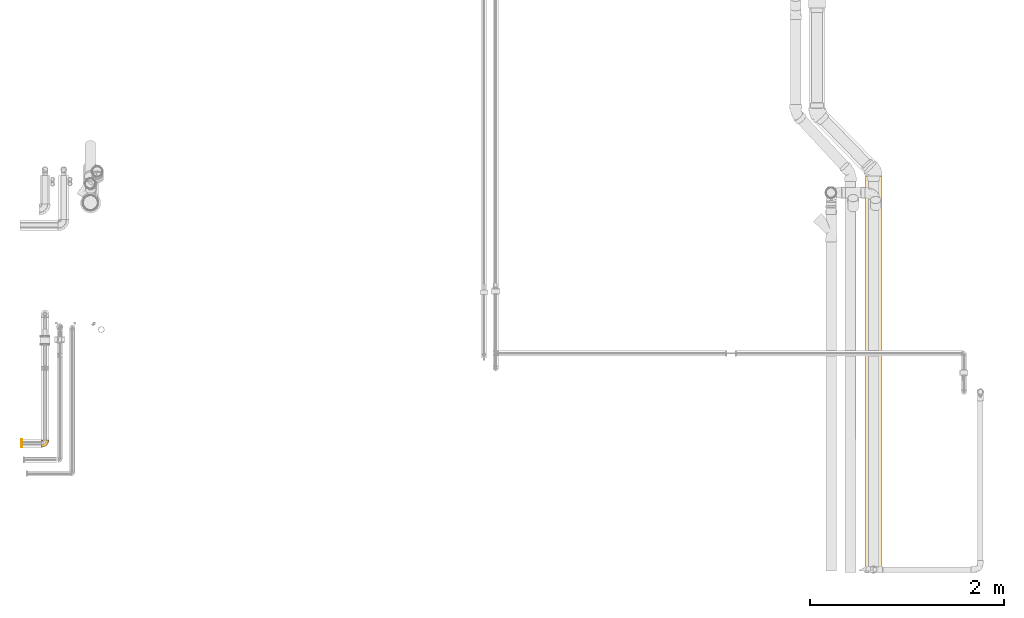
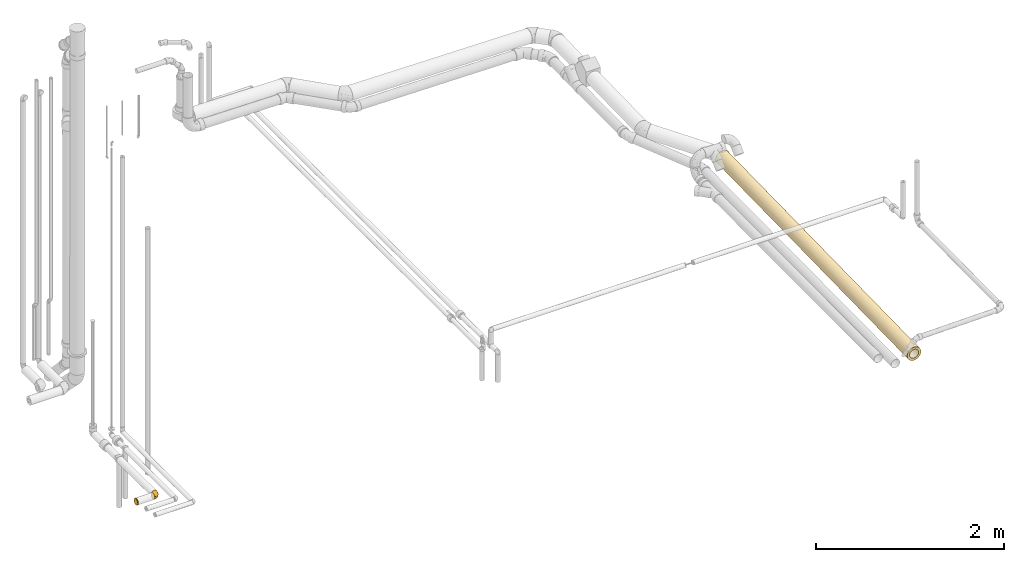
# One storey, part 8 of 78: 3 coverings.
"""IFC2X3 building model written with IfcOpenShell, lengths in millimetres."""

from ifc_helpers import new_model, entity, si_unit, converted_unit, derived_unit, direction, frame, origin_with_axes, place, context, subcontext, project, spatial, open_shell, faceted_brep, surface_model, source, transform, mapped, element, save


model = new_model("IFC2X3")

# Units and contexts
model_context = context("Model", 3, precision=0.01, world=frame((0.0, 4.29681676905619e-09, 0.0)), true_north=direction((4.01073788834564e-13, 1.0)))
plan_context = context("Plan", 3, precision=0.01, world=frame((0.0, 4.29681676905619e-09, 0.0)), true_north=direction((4.01073788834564e-13, 1.0)))
body_context = subcontext(model_context, "Body", "Model", "MODEL_VIEW")
ifc_project = project(units=[converted_unit("PLANEANGLEUNIT", "DEGREE", entity("IfcPositiveLengthMeasure", 0.0174532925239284), si_unit("PLANEANGLEUNIT", "RADIAN"), dimensions=[0, 0, 0, 0, 0, 0, 0]), si_unit("AREAUNIT", "SQUARE_METRE"), si_unit("LENGTHUNIT", "METRE", prefix="MILLI"), si_unit("MASSUNIT", "GRAM", prefix="KILO"), si_unit("POWERUNIT", "WATT"), si_unit("PRESSUREUNIT", "PASCAL"), si_unit("FORCEUNIT", "NEWTON", prefix="KILO"), si_unit("ELECTRICVOLTAGEUNIT", "VOLT"), si_unit("ELECTRICCURRENTUNIT", "AMPERE"), si_unit("THERMODYNAMICTEMPERATUREUNIT", "DEGREE_CELSIUS"), si_unit("TIMEUNIT", "SECOND"), si_unit("VOLUMEUNIT", "CUBIC_METRE"), derived_unit("LINEARVELOCITYUNIT", [(si_unit("LENGTHUNIT", "METRE"), 1), (si_unit("TIMEUNIT", "SECOND"), -1)]), derived_unit("VOLUMETRICFLOWRATEUNIT", [(si_unit("VOLUMEUNIT", "CUBIC_METRE"), 1), (si_unit("TIMEUNIT", "SECOND"), -1)]), derived_unit("THERMALTRANSMITTANCEUNIT", [(si_unit("POWERUNIT", "WATT"), 1), (si_unit("THERMODYNAMICTEMPERATUREUNIT", "KELVIN"), -1), (si_unit("AREAUNIT", "SQUARE_METRE"), -1)]), derived_unit("SOUNDPRESSUREUNIT", [(si_unit("PRESSUREUNIT", "PASCAL"), 1)])], contexts=[model_context, plan_context])

# Site, building, storey
site_placement = place(None, frame((0.0, -4.29681676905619e-09, 0.0), z_axis=(0.0, 0.0, 1.0), x_axis=(1.0, 0.0, 0.0)))
site = spatial("IfcSite", under=ifc_project, at=site_placement, Name="ENGM", CompositionType="ELEMENT")
building_placement = place(site_placement, frame((0.0, 4.29681676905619e-09, 0.0), z_axis=(0.0, 0.0, 1.0), x_axis=(1.0, 0.0, 0.0)))
building = spatial("IfcBuilding", under=site, at=building_placement, Name="TH", CompositionType="ELEMENT")
storey_placement = place(building_placement, frame((0.0, 0.0, 205200.0), z_axis=(0.0, 0.0, 1.0), x_axis=(1.0, 0.0, 0.0)))
storey = spatial("IfcBuildingStorey", under=building, at=storey_placement, Name="Nivå D + 1,2 m", CompositionType="ELEMENT", Elevation=205200.0)

# Coverings
shared_shape_1 = source(origin_with_axes(), body_context, "Body", "SurfaceModel", [
    surface_model("IfcShellBasedSurfaceModel", [(18.01272, 35.0, 37.38706), (25.88116, 35.0, 32.44096), (32.45082, 35.0, 25.86878), (-34.77526, 35.0, -22.64798), (-10.20341, 35.0, 40.22611), (37.3931, 35.0, 18.00017), (0.0, 35.0, 41.5), (9.23923, 35.0, 40.45845), (-28.14065, 35.0, 30.5017), (-19.77898, 35.0, 36.48345), (-34.77526, 35.0, 22.64798), (40.46071, 35.0, 9.22935), (40.45845, 35.0, -9.23923), (32.44096, 35.0, -25.88116), (37.38706, 35.0, -18.01272), (25.86878, 35.0, -32.45082), (9.22935, 35.0, -40.46071), (18.00017, 35.0, -37.3931), (-19.77754, 35.0, -36.48423), (-28.13945, 35.0, -30.50281), (-10.20182, 35.0, -40.22652), (0.0, 35.0, -41.5), (41.5, 35.0, 0.0), (-35.0, 34.77526, -22.64798), (-35.0, 28.14035, -30.50198), (-35.0, 19.77826, -36.48384), (-35.0, 10.20222, -40.22642), (-35.0, 0.0, -41.5), (-35.0, 34.77526, 22.64798), (-35.0, -10.74099, -40.08592), (-35.0, 19.77826, 36.48384), (-35.0, 28.14035, 30.50198), (-35.0, 10.20222, 40.22642), (-35.0, -10.74099, 40.08592), (-35.0, 0.0, 41.5), (-35.0, -20.75, -35.94006), (-35.0, -35.94006, -20.75), (-35.0, -29.34493, -29.34493), (-35.0, -40.08592, 10.74099), (-35.0, -40.08592, -10.74099), (-35.0, -29.34493, 29.34493), (-35.0, -20.75, 35.94006), (-35.0, -35.94006, 20.75), (-35.0, -41.5, 0.0), (-34.84109, 34.84109, 22.64798), (-34.84109, 34.84109, -22.64798), (-31.64421, 15.39167, -38.65283), (-32.30655, 24.48475, -33.75287), (-27.62803, 16.52293, -38.65283), (-22.66177, 11.06119, -40.70807), (-17.5, 4.68911, -41.5), (-26.25, 2.34456, -41.5), (-16.52233, 27.62799, -38.65305), (-26.67126, 29.31483, -33.18807), (-24.48391, 32.30643, -33.75347), (-29.83814, 24.09272, -34.588), (-32.60004, 29.67626, -29.5284), (-27.75569, 9.28145, -40.66547), (-2.34456, 26.25, -41.5), (-11.06069, 22.6619, -40.70815), (-9.28112, 27.75578, -40.66554), (-23.93214, 18.44385, -38.66122), (-18.82795, 18.80671, -39.69251), (-15.39109, 31.64418, -38.65305), (-34.10257, 30.40075, -28.34273), (-30.40041, 34.10249, -28.34311), (-30.11227, 32.79735, -29.04801), (-34.80064, 34.93873, -22.64798), (-24.63119, 23.87481, -36.47636), (-34.93873, 34.80064, -22.64798), (-29.35712, 27.14751, -32.8729), (-31.63032, 32.35902, -27.90361), (-34.82086, 34.88991, -22.64798), (-18.46359, 23.9286, -38.65558), (-11.09456, 11.09456, -41.5), (-4.68911, 17.5, -41.5), (-34.88991, 34.82086, -22.64798), (27.83677, -5.85141, -11.24085), (36.82171, 16.48761, -13.71224), (35.67679, 5.72472, 0.0), (-22.86743, -6.62496, -40.64984), (-14.33903, -3.37223, -40.60316), (-3.92502, -15.84833, -33.42878), (-8.75932, -27.65077, -25.2636), (-19.40263, -23.21017, -32.92416), (-15.52855, -12.00825, -38.341), (-26.16455, -15.10836, -38.341), (17.27298, 12.08954, -35.14288), (21.0321, 24.14836, -35.14288), (27.30336, 18.94255, -29.35053), (-2.77145, 6.24147, -40.683), (-1.79804, 28.28963, -41.5), (25.04903, -4.75857, -18.75896), (-12.84078, -37.47165, -7.67715), (-15.9244, -35.81683, -15.88136), (38.52278, 20.03254, 0.0), (-23.05874, -31.86627, -25.2636), (14.91792, -14.6542, -21.64481), (20.81681, -3.31546, -25.55024), (5.24732, 10.54563, -39.69862), (12.15981, 22.84564, -39.17315), (33.85562, 21.66517, -22.08583), (6.20615, -4.51621, -35.1312), (-2.6613, -2.55281, -38.86273), (24.37797, 7.43419, -28.18078), (29.23604, 6.84605, -22.08583), (19.0594, -16.23966, -12.77633), (-3.17391, -30.78008, -16.5095), (0.72525, -31.45201, -9.29177), (8.68959, -24.37514, -14.9415), (13.12961, -23.6461, -7.21983), (19.09367, -19.09367, 0.0), (27.38523, -6.68448, 0.0), (-20.03254, -38.52278, 0.0), (3.73155, -20.28384, -25.80524), (10.84929, -10.13749, -29.35053), (-28.28963, 1.79804, -41.5), (16.35343, 1.13542, -31.92573), (10.96017, 4.30399, -36.21391), (-5.72472, -35.67679, 0.0), (6.68448, -27.38523, 0.0), (-21.76287, -14.12933, 38.341), (-12.85345, -37.43022, 7.90383), (11.84387, -22.42643, 13.88297), (27.85306, -5.82875, 11.23619), (27.31531, 18.94409, 29.33934), (33.86461, 21.66997, 22.07324), (-11.70817, -20.5805, 32.92416), (-17.88346, -30.73215, 25.2636), (0.65751, -23.60289, 24.35959), (17.28854, 12.09365, 35.13497), (21.04556, 24.1516, 35.13497), (12.17134, 22.84486, 39.16918), (19.93553, -9.81896, 20.82115), (-18.51493, -4.79847, 40.7063), (-17.5, 4.68911, 41.5), (-26.25, 2.34456, 41.5), (-1.79804, 28.28963, 41.5), (-21.93773, -37.8245, 14.22278), (-24.39922, -24.3239, 32.92416), (2.79451, -30.69957, 7.6178), (36.82733, 16.49349, 13.70088), (0.92762, -10.78806, 34.40886), (-12.95334, -10.19298, 38.5831), (29.24842, 6.85457, 22.07324), (-11.58566, -0.46749, 40.81683), (-3.83679, 4.32716, 40.57223), (-4.68911, 17.5, 41.5), (-11.09456, 11.09456, 41.5), (21.8032, 4.76185, 29.33965), (5.25045, 10.53124, 39.69553), (-26.9199, -7.06022, 40.75478), (10.87448, -10.12785, 29.33934), (8.44865, -0.34272, 35.78987), (-8.41843, -33.35439, 15.88136), (1.55905, -17.3782, 29.80727), (-5.11326, -4.75335, 38.7961), (-27.75569, 9.28145, 40.66547), (-27.62803, 16.52293, 38.65283), (-22.66177, 11.06119, 40.70807), (-34.10257, 30.40075, 28.34273), (-32.30655, 24.48475, 33.75287), (-31.64421, 15.39167, 38.65283), (-32.60004, 29.67626, 29.5284), (-9.28203, 27.75543, 40.66538), (-30.40098, 34.10263, 28.34248), (-24.48523, 32.30666, 33.75251), (-26.67272, 29.31579, 33.18675), (-16.52396, 27.62804, 38.65246), (-2.34456, 26.25, 41.5), (-11.06212, 22.66147, 40.70793), (-15.39265, 31.64413, 38.65246), (-34.93873, 34.80064, 22.64798), (-23.93199, 18.44467, 38.66099), (-18.82692, 18.80731, 39.6926), (-18.46401, 23.92901, 38.65536), (-24.63097, 23.87584, 36.47604), (-29.35712, 27.14751, 32.8729), (-29.83814, 24.09272, 34.588), (-34.80064, 34.93873, 22.64798), (-34.82086, 34.88991, 22.64798), (-31.63096, 32.35952, 27.90271), (-30.11227, 32.79749, 29.04795), (-34.88991, 34.82086, 22.64798)], [open_shell([[[0, 1, 2]], [[3, 4, 0]], [[5, 0, 2]], [[6, 0, 4]], [[6, 7, 0]], [[4, 8, 9]], [[3, 8, 4]], [[8, 3, 10]], [[5, 11, 12]], [[13, 12, 14]], [[12, 15, 16]], [[15, 12, 13]], [[17, 16, 15]], [[3, 18, 19]], [[18, 3, 20]], [[20, 16, 21]], [[16, 20, 3]], [[3, 12, 16]], [[12, 11, 22]], [[23, 24, 25]], [[25, 26, 27]], [[23, 25, 28]], [[29, 30, 25]], [[31, 28, 30]], [[25, 30, 28]], [[30, 29, 32]], [[32, 33, 34]], [[27, 29, 25]], [[29, 35, 36]], [[29, 36, 33]], [[36, 35, 37]], [[38, 36, 39]], [[33, 40, 41]], [[40, 33, 42]], [[36, 42, 33]], [[36, 38, 42]], [[39, 43, 38]], [[29, 33, 32]], [[23, 28, 44]], [[45, 23, 44]], [[10, 3, 44]], [[45, 44, 3]], [[46, 47, 48]], [[49, 50, 51]], [[52, 53, 54]], [[55, 47, 56]], [[51, 57, 49]], [[58, 59, 60]], [[25, 46, 26]], [[61, 62, 49]], [[46, 57, 26]], [[52, 60, 59]], [[18, 20, 63]], [[26, 57, 27]], [[24, 64, 47]], [[65, 66, 67]], [[18, 63, 54]], [[19, 65, 3]], [[21, 58, 60]], [[64, 56, 47]], [[62, 61, 68]], [[60, 52, 63]], [[18, 54, 19]], [[23, 69, 64]], [[70, 55, 56]], [[47, 25, 24]], [[65, 19, 54]], [[45, 71, 70]], [[72, 67, 66]], [[59, 73, 52]], [[62, 74, 49]], [[47, 46, 25]], [[57, 46, 48]], [[57, 48, 49]], [[57, 51, 27]], [[61, 49, 48]], [[59, 74, 62]], [[55, 61, 48]], [[68, 61, 70]], [[70, 53, 68]], [[73, 68, 53]], [[20, 21, 60]], [[54, 63, 52]], [[20, 60, 63]], [[59, 58, 75]], [[73, 59, 62]], [[68, 73, 62]], [[53, 52, 73]], [[23, 64, 24]], [[76, 56, 69]], [[70, 76, 45]], [[69, 56, 64]], [[76, 70, 56]], [[61, 55, 70]], [[48, 47, 55]], [[71, 45, 72]], [[3, 65, 67]], [[66, 54, 53]], [[54, 66, 65]], [[66, 53, 71]], [[66, 71, 72]], [[70, 71, 53]], [[74, 59, 75]], [[50, 49, 74]], [[77, 78, 79]], [[80, 50, 81]], [[82, 83, 84]], [[85, 86, 80]], [[87, 88, 89]], [[74, 90, 81]], [[91, 21, 16]], [[78, 77, 92]], [[93, 39, 94]], [[78, 12, 95]], [[96, 36, 37]], [[35, 86, 84]], [[35, 84, 37]], [[36, 96, 94]], [[86, 35, 29]], [[97, 98, 92]], [[99, 75, 100]], [[91, 16, 100]], [[13, 14, 101]], [[89, 15, 13]], [[100, 75, 91]], [[100, 16, 17]], [[88, 100, 17]], [[102, 82, 103]], [[100, 87, 99]], [[104, 105, 98]], [[104, 89, 105]], [[97, 92, 106]], [[93, 107, 108]], [[78, 14, 12]], [[79, 78, 95]], [[105, 101, 78]], [[36, 94, 39]], [[101, 89, 13]], [[109, 110, 108]], [[15, 88, 17]], [[107, 109, 108]], [[111, 77, 112]], [[39, 93, 113]], [[97, 114, 115]], [[81, 90, 103]], [[82, 84, 85]], [[96, 84, 83]], [[29, 27, 116]], [[87, 117, 118]], [[99, 103, 90]], [[12, 22, 95]], [[78, 101, 14]], [[89, 101, 105]], [[89, 88, 15]], [[100, 88, 87]], [[103, 82, 85]], [[82, 115, 114]], [[81, 85, 80]], [[117, 102, 118]], [[113, 93, 119]], [[113, 43, 39]], [[110, 111, 120]], [[120, 119, 108]], [[93, 108, 119]], [[106, 110, 109]], [[120, 108, 110]], [[107, 93, 94]], [[94, 83, 107]], [[114, 107, 83]], [[97, 106, 109]], [[106, 77, 111]], [[109, 107, 114]], [[98, 97, 115]], [[109, 114, 97]], [[82, 114, 83]], [[117, 98, 115]], [[92, 98, 105]], [[102, 117, 115]], [[104, 87, 89]], [[82, 102, 115]], [[118, 103, 99]], [[78, 92, 105]], [[92, 77, 106]], [[98, 117, 104]], [[87, 104, 117]], [[103, 118, 102]], [[99, 90, 75]], [[99, 87, 118]], [[84, 96, 37]], [[94, 96, 83]], [[80, 29, 116]], [[84, 86, 85]], [[29, 80, 86]], [[50, 80, 116]], [[74, 81, 50]], [[103, 85, 81]], [[77, 79, 112]], [[111, 110, 106]], [[75, 90, 74]], [[41, 121, 33]], [[119, 122, 113]], [[123, 111, 124]], [[122, 38, 113]], [[125, 126, 2]], [[127, 128, 129]], [[130, 131, 132]], [[133, 129, 123]], [[134, 135, 136]], [[7, 137, 132]], [[138, 128, 42]], [[7, 6, 137]], [[40, 139, 41]], [[41, 139, 121]], [[0, 7, 132]], [[111, 123, 140]], [[124, 79, 141]], [[127, 142, 143]], [[144, 126, 125]], [[1, 125, 2]], [[38, 122, 138]], [[141, 5, 126]], [[141, 95, 11]], [[1, 0, 131]], [[134, 145, 135]], [[146, 147, 148]], [[149, 144, 125]], [[130, 132, 150]], [[132, 147, 150]], [[5, 141, 11]], [[42, 128, 40]], [[131, 125, 1]], [[124, 141, 144]], [[149, 125, 130]], [[124, 133, 123]], [[5, 2, 126]], [[124, 111, 112]], [[147, 132, 137]], [[121, 134, 151]], [[152, 153, 142]], [[153, 130, 150]], [[129, 128, 154]], [[139, 128, 127]], [[148, 145, 146]], [[153, 152, 149]], [[123, 129, 154]], [[155, 152, 142]], [[122, 140, 154]], [[124, 144, 133]], [[95, 141, 79]], [[95, 22, 11]], [[33, 151, 34]], [[141, 126, 144]], [[132, 131, 0]], [[125, 131, 130]], [[146, 153, 150]], [[145, 148, 135]], [[142, 153, 156]], [[38, 43, 113]], [[140, 122, 119]], [[122, 154, 138]], [[140, 119, 120]], [[154, 140, 123]], [[128, 138, 154]], [[42, 38, 138]], [[151, 134, 136]], [[143, 134, 121]], [[149, 133, 144]], [[111, 140, 120]], [[129, 133, 152]], [[34, 151, 136]], [[121, 151, 33]], [[153, 149, 130]], [[133, 149, 152]], [[143, 142, 156]], [[155, 127, 129]], [[128, 139, 40]], [[121, 139, 127]], [[127, 143, 121]], [[145, 143, 156]], [[143, 145, 134]], [[145, 156, 146]], [[153, 146, 156]], [[147, 146, 150]], [[127, 155, 142]], [[129, 152, 155]], [[112, 79, 124]], [[34, 136, 157]], [[158, 157, 159]], [[160, 31, 161]], [[30, 162, 161]], [[163, 160, 161]], [[4, 164, 6]], [[8, 165, 166]], [[32, 162, 30]], [[28, 31, 160]], [[167, 168, 166]], [[169, 164, 170]], [[30, 161, 31]], [[157, 158, 162]], [[9, 171, 4]], [[160, 163, 172]], [[168, 171, 166]], [[171, 164, 4]], [[158, 159, 173]], [[174, 170, 175]], [[176, 177, 173]], [[178, 177, 163]], [[10, 179, 165]], [[136, 159, 157]], [[166, 9, 8]], [[180, 181, 182]], [[165, 182, 166]], [[177, 167, 181]], [[159, 135, 148]], [[147, 169, 170]], [[32, 34, 157]], [[161, 162, 158]], [[32, 157, 162]], [[159, 136, 135]], [[147, 170, 148]], [[173, 159, 174]], [[176, 173, 174]], [[178, 173, 177]], [[175, 176, 174]], [[167, 177, 176]], [[166, 171, 9]], [[164, 171, 168]], [[164, 168, 170]], [[164, 169, 6]], [[175, 170, 168]], [[170, 174, 148]], [[168, 167, 175]], [[176, 175, 167]], [[177, 44, 183]], [[28, 160, 172]], [[161, 178, 163]], [[177, 183, 163]], [[172, 163, 183]], [[161, 158, 178]], [[173, 178, 158]], [[10, 165, 8]], [[165, 179, 182]], [[181, 180, 44]], [[180, 182, 179]], [[166, 182, 167]], [[177, 181, 44]], [[182, 181, 167]], [[159, 148, 174]], [[0, 5, 12]], [[3, 0, 12]]])]),
])
covering_1_placement = place(storey_placement, frame((895369.5, 477348.36592, 4450.0), z_axis=(0.0, 0.0, 1.0), x_axis=(1.0, 0.0, 0.0)))
element("IfcCovering", 1, at=covering_1_placement, inside=storey, Name="BI20T - Cellegummi 13 mm kalde rør", PredefinedType="INSULATION", context=body_context, shape_type="MappedRepresentation", body=[
    mapped(shared_shape_1, transform((0.0, 0.0, 0.0), scale=1.0)),
])
shared_shape_2 = source(origin_with_axes(), body_context, "Body", "SurfaceModel", [
    surface_model("IfcShellBasedSurfaceModel", [(0.0, 10.74099, 40.08592), (0.0, -29.34493, 29.34493), (0.0, 0.0, 41.5), (0.0, 20.75, 35.94006), (0.0, -40.08592, -10.74099), (0.0, 29.34493, 29.34493), (0.0, 35.94006, 20.75), (0.0, 40.08592, 10.74099), (0.0, 41.5, 0.0), (0.0, -10.74099, 40.08592), (0.0, -20.75, 35.94006), (0.0, -40.08592, 10.74099), (0.0, -35.94006, 20.75), (0.0, -41.5, 0.0), (0.0, 40.08592, -10.74099), (0.0, 35.94006, -20.75), (0.0, 10.74099, -40.08592), (0.0, 20.75, -35.94006), (0.0, 29.34493, -29.34493), (0.0, -29.34493, -29.34493), (0.0, -35.94006, -20.75), (0.0, -20.75, -35.94006), (0.0, 0.0, -41.5), (0.0, -10.74099, -40.08592), (10.0, 35.94006, -20.75), (10.0, 10.74099, -40.08592), (10.0, 20.75, -35.94006), (10.0, 29.34493, -29.34493), (10.0, 40.08592, -10.74099), (10.0, 41.5, 0.0), (10.0, -40.08592, -10.74099), (10.0, -10.74099, -40.08592), (10.0, 0.0, -41.5), (10.0, -20.75, -35.94006), (10.0, -29.34493, -29.34493), (10.0, -35.94006, -20.75), (10.0, 29.34493, 29.34493), (10.0, 40.08592, 10.74099), (10.0, 35.94006, 20.75), (10.0, -40.08592, 10.74099), (10.0, 10.74099, 40.08592), (10.0, 20.75, 35.94006), (10.0, 0.0, 41.5), (10.0, -29.34493, 29.34493), (10.0, -35.94006, 20.75), (10.0, -41.5, 0.0), (10.0, -10.74099, 40.08592), (10.0, -20.75, 35.94006)], [open_shell([[[0, 1, 2]], [[3, 4, 0]], [[5, 6, 7]], [[3, 5, 8]], [[0, 4, 1]], [[9, 1, 10]], [[9, 2, 1]], [[1, 11, 12]], [[1, 4, 11]], [[11, 4, 13]], [[5, 7, 8]], [[8, 14, 15]], [[8, 15, 16]], [[17, 16, 15]], [[17, 15, 18]], [[8, 16, 4]], [[4, 19, 20]], [[19, 4, 21]], [[21, 22, 23]], [[22, 21, 4]], [[4, 16, 22]], [[8, 4, 3]], [[24, 25, 26]], [[24, 26, 27]], [[24, 28, 29]], [[24, 29, 25]], [[25, 29, 30]], [[25, 31, 32]], [[25, 33, 31]], [[34, 30, 35]], [[30, 34, 33]], [[25, 30, 33]], [[29, 36, 30]], [[37, 38, 36]], [[30, 36, 39]], [[36, 40, 39]], [[40, 36, 41]], [[42, 43, 40]], [[39, 43, 44]], [[45, 30, 39]], [[43, 46, 47]], [[43, 39, 40]], [[46, 43, 42]], [[29, 37, 36]], [[37, 8, 7]], [[38, 7, 6]], [[29, 8, 37]], [[38, 37, 7]], [[36, 38, 6]], [[6, 5, 36]], [[41, 5, 3]], [[40, 3, 0]], [[41, 3, 40]], [[42, 40, 0]], [[2, 42, 0]], [[5, 41, 36]], [[46, 2, 9]], [[47, 9, 10]], [[42, 2, 46]], [[47, 46, 9]], [[43, 47, 10]], [[10, 1, 43]], [[44, 1, 12]], [[39, 12, 11]], [[44, 12, 39]], [[45, 39, 11]], [[13, 45, 11]], [[1, 44, 43]], [[30, 13, 4]], [[35, 4, 20]], [[45, 13, 30]], [[35, 30, 4]], [[34, 35, 20]], [[20, 19, 34]], [[33, 19, 21]], [[31, 21, 23]], [[33, 21, 31]], [[32, 31, 23]], [[22, 32, 23]], [[19, 33, 34]], [[25, 22, 16]], [[26, 16, 17]], [[32, 22, 25]], [[26, 25, 16]], [[27, 26, 17]], [[17, 18, 27]], [[24, 18, 15]], [[28, 15, 14]], [[24, 15, 28]], [[29, 28, 14]], [[8, 29, 14]], [[18, 24, 27]]])]),
])
covering_2_placement = place(storey_placement, frame((895136.31886, 477348.36592, 4450.0), z_axis=(0.0, 0.0, 1.0), x_axis=(-1.0, 0.0, 0.0)))
element("IfcCovering", 2, at=covering_2_placement, inside=storey, Name="BI20T - Cellegummi 13 mm kalde rør", PredefinedType="INSULATION", context=body_context, shape_type="MappedRepresentation", body=[
    mapped(shared_shape_2, transform((0.0, 0.0, 0.0), scale=1.0)),
])
covering_3_placement = place(storey_placement, frame((903902.88819, 480104.18208, 4172.07457), z_axis=(0.0, -0.0199960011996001, 0.999800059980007), x_axis=(0.0, -0.999800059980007, -0.0199960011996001)))
element("IfcCovering", 3, at=covering_3_placement, inside=storey, Name="BI17T - Cellegummi 13 mm SPV fett", PredefinedType="INSULATION", context=body_context, shape_type="Brep", body=[
    faceted_brep([(4070.31897876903, 55.0, 0.0), (4070.50999176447, 54.1644264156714, -9.55064977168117), (0.0, 54.1644264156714, -9.55064977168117), (0.0, 55.0, 0.0), (4070.69520092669, 51.6830941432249, -18.8111078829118), (0.0, 51.6830941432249, -18.8111078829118), (4070.86897876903, 47.6313972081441, -27.5), (0.0, 47.6313972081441, -27.5), (4071.02604513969, 42.1324443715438, -35.3533185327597), (0.0, 42.1324443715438, -35.3533185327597), (4071.16162765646, 35.3533185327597, -42.1324443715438), (0.0, 35.3533185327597, -42.1324443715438), (4071.2716067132, 27.5, -47.6313972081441), (0.0, 27.5, -47.6313972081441), (4071.3526406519, 18.8111078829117, -51.683094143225), (0.0, 18.8111078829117, -51.683094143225), (4071.40226729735, 9.55064977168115, -54.1644264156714), (0.0, 9.55064977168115, -54.1644264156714), (4071.41897876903, -1.01033360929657e-14, -55.0), (0.0, -1.01033360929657e-14, -55.0), (4071.40226729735, -9.55064977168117, -54.1644264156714), (0.0, -9.55064977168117, -54.1644264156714), (4071.3526406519, -18.8111078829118, -51.6830941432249), (0.0, -18.8111078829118, -51.6830941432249), (4071.2716067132, -27.5, -47.6313972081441), (0.0, -27.5, -47.6313972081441), (4071.16162765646, -35.3533185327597, -42.1324443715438), (0.0, -35.3533185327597, -42.1324443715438), (4071.02604513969, -42.1324443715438, -35.3533185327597), (0.0, -42.1324443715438, -35.3533185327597), (4070.86897876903, -47.6313972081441, -27.5), (0.0, -47.6313972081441, -27.5), (4070.69520092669, -51.683094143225, -18.8111078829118), (0.0, -51.683094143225, -18.8111078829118), (4070.50999176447, -54.1644264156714, -9.55064977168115), (0.0, -54.1644264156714, -9.55064977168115), (4070.31897876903, -55.0, 6.73555739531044e-15), (0.0, -55.0, 6.73555739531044e-15), (4070.1279657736, -54.1644264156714, 9.55064977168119), (0.0, -54.1644264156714, 9.55064977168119), (4069.94275661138, -51.683094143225, 18.8111078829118), (0.0, -51.683094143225, 18.8111078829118), (4069.76897876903, -47.6313972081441, 27.5), (0.0, -47.6313972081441, 27.5), (4069.61191239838, -42.1324443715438, 35.3533185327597), (0.0, -42.1324443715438, 35.3533185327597), (4069.4763298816, -35.3533185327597, 42.1324443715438), (0.0, -35.3533185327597, 42.1324443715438), (4069.36635082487, -27.5, 47.6313972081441), (0.0, -27.5, 47.6313972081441), (4069.28531688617, -18.8111078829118, 51.683094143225), (0.0, -18.8111078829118, 51.683094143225), (4069.23569024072, -9.55064977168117, 54.1644264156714), (0.0, -9.55064977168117, 54.1644264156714), (4069.21897876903, 3.36777869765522e-15, 55.0), (0.0, 3.36777869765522e-15, 55.0), (4069.23569024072, 9.55064977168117, 54.1644264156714), (0.0, 9.55064977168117, 54.1644264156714), (4069.28531688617, 18.8111078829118, 51.683094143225), (0.0, 18.8111078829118, 51.683094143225), (4069.36635082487, 27.5, 47.6313972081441), (0.0, 27.5, 47.6313972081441), (4069.4763298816, 35.3533185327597, 42.1324443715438), (0.0, 35.3533185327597, 42.1324443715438), (4069.61191239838, 42.1324443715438, 35.3533185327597), (0.0, 42.1324443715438, 35.3533185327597), (4069.76897876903, 47.6313972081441, 27.5), (0.0, 47.6313972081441, 27.5), (4069.94275661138, 51.683094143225, 18.8111078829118), (0.0, 51.683094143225, 18.8111078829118), (4070.1279657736, 54.1644264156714, 9.55064977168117), (0.0, 54.1644264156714, 9.55064977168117), (4070.61070770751, 82.7238512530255, -14.5864469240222), (4070.31897876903, 84.0, 0.0), (0.0, 84.0, 0.0), (0.0, 82.7238512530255, -14.5864469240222), (4070.02724983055, 82.7238512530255, 14.5864469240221), (0.0, 82.7238512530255, 14.5864469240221), (4069.74438492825, 78.9341801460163, 28.7296920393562), (0.0, 78.9341801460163, 28.7296920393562), (4069.47897876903, 72.7461339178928, 42.0), (0.0, 72.7461339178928, 42.0), (4069.23909558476, 64.3477332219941, 53.9941592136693), (0.0, 64.3477332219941, 53.9941592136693), (4069.03202410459, 53.9941592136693, 64.3477332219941), (0.0, 53.9941592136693, 64.3477332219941), (4068.86405609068, 42.0, 72.7461339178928), (0.0, 42.0, 72.7461339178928), (4068.74029516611, 28.7296920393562, 78.9341801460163), (0.0, 28.7296920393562, 78.9341801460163), (4068.66450174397, 14.5864469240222, 82.7238512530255), (0.0, 14.5864469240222, 82.7238512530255), (4068.63897876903, 5.14351655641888e-15, 84.0), (0.0, 5.14351655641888e-15, 84.0), (4068.66450174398, -14.5864469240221, 82.7238512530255), (0.0, -14.5864469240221, 82.7238512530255), (4068.74029516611, -28.7296920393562, 78.9341801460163), (0.0, -28.7296920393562, 78.9341801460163), (4068.86405609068, -42.0, 72.7461339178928), (0.0, -42.0, 72.7461339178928), (4069.03202410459, -53.9941592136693, 64.3477332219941), (0.0, -53.9941592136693, 64.3477332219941), (4069.23909558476, -64.3477332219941, 53.9941592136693), (0.0, -64.3477332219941, 53.9941592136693), (4069.47897876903, -72.7461339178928, 42.0), (0.0, -72.7461339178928, 42.0), (4069.74438492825, -78.9341801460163, 28.7296920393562), (0.0, -78.9341801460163, 28.7296920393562), (4070.02724983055, -82.7238512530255, 14.5864469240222), (0.0, -82.7238512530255, 14.5864469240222), (4070.31897876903, -84.0, 1.02870331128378e-14), (0.0, -84.0, 1.02870331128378e-14), (4070.61070770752, -82.7238512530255, -14.5864469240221), (0.0, -82.7238512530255, -14.5864469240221), (4070.89357260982, -78.9341801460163, -28.7296920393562), (0.0, -78.9341801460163, -28.7296920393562), (4071.15897876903, -72.7461339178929, -42.0), (0.0, -72.7461339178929, -42.0), (4071.39886195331, -64.3477332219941, -53.9941592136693), (0.0, -64.3477332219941, -53.9941592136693), (4071.60593343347, -53.9941592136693, -64.3477332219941), (0.0, -53.9941592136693, -64.3477332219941), (4071.77390144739, -42.0, -72.7461339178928), (0.0, -42.0, -72.7461339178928), (4071.89766237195, -28.7296920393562, -78.9341801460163), (0.0, -28.7296920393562, -78.9341801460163), (4071.9734557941, -14.5864469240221, -82.7238512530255), (0.0, -14.5864469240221, -82.7238512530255), (4071.99897876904, -1.54305496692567e-14, -84.0), (0.0, -1.54305496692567e-14, -84.0), (4071.97345579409, 14.5864469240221, -82.7238512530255), (0.0, 14.5864469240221, -82.7238512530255), (4071.89766237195, 28.7296920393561, -78.9341801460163), (0.0, 28.7296920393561, -78.9341801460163), (4071.77390144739, 42.0, -72.7461339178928), (0.0, 42.0, -72.7461339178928), (4071.60593343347, 53.9941592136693, -64.3477332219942), (0.0, 53.9941592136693, -64.3477332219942), (4071.39886195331, 64.3477332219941, -53.9941592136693), (0.0, 64.3477332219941, -53.9941592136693), (4071.15897876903, 72.7461339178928, -42.0), (0.0, 72.7461339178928, -42.0), (4070.89357260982, 78.9341801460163, -28.7296920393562), (0.0, 78.9341801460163, -28.7296920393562)], [[[0, 1, 2, 3]], [[1, 4, 5, 2]], [[4, 6, 7, 5]], [[6, 8, 9, 7]], [[8, 10, 11, 9]], [[10, 12, 13, 11]], [[12, 14, 15, 13]], [[14, 16, 17, 15]], [[16, 18, 19, 17]], [[18, 20, 21, 19]], [[20, 22, 23, 21]], [[22, 24, 25, 23]], [[24, 26, 27, 25]], [[26, 28, 29, 27]], [[28, 30, 31, 29]], [[30, 32, 33, 31]], [[32, 34, 35, 33]], [[34, 36, 37, 35]], [[36, 38, 39, 37]], [[38, 40, 41, 39]], [[40, 42, 43, 41]], [[42, 44, 45, 43]], [[44, 46, 47, 45]], [[46, 48, 49, 47]], [[48, 50, 51, 49]], [[50, 52, 53, 51]], [[52, 54, 55, 53]], [[54, 56, 57, 55]], [[56, 58, 59, 57]], [[58, 60, 61, 59]], [[60, 62, 63, 61]], [[62, 64, 65, 63]], [[64, 66, 67, 65]], [[66, 68, 69, 67]], [[68, 70, 71, 69]], [[70, 0, 3, 71]], [[72, 73, 74, 75]], [[73, 76, 77, 74]], [[76, 78, 79, 77]], [[78, 80, 81, 79]], [[80, 82, 83, 81]], [[82, 84, 85, 83]], [[84, 86, 87, 85]], [[86, 88, 89, 87]], [[88, 90, 91, 89]], [[90, 92, 93, 91]], [[92, 94, 95, 93]], [[94, 96, 97, 95]], [[96, 98, 99, 97]], [[98, 100, 101, 99]], [[100, 102, 103, 101]], [[102, 104, 105, 103]], [[104, 106, 107, 105]], [[106, 108, 109, 107]], [[108, 110, 111, 109]], [[110, 112, 113, 111]], [[112, 114, 115, 113]], [[114, 116, 117, 115]], [[116, 118, 119, 117]], [[118, 120, 121, 119]], [[120, 122, 123, 121]], [[122, 124, 125, 123]], [[124, 126, 127, 125]], [[126, 128, 129, 127]], [[128, 130, 131, 129]], [[130, 132, 133, 131]], [[132, 134, 135, 133]], [[134, 136, 137, 135]], [[136, 138, 139, 137]], [[138, 140, 141, 139]], [[140, 142, 143, 141]], [[142, 72, 75, 143]], [[75, 74, 77, 79, 81, 83, 85, 87, 89, 91, 93, 95, 97, 99, 101, 103, 105, 107, 109, 111, 113, 115, 117, 119, 121, 123, 125, 127, 129, 131, 133, 135, 137, 139, 141, 143], [3, 2, 5, 7, 9, 11, 13, 15, 17, 19, 21, 23, 25, 27, 29, 31, 33, 35, 37, 39, 41, 43, 45, 47, 49, 51, 53, 55, 57, 59, 61, 63, 65, 67, 69, 71]], [[142, 140, 138, 136, 134, 132, 130, 128, 126, 124, 122, 120, 118, 116, 114, 112, 110, 108, 106, 104, 102, 100, 98, 96, 94, 92, 90, 88, 86, 84, 82, 80, 78, 76, 73, 72], [70, 68, 66, 64, 62, 60, 58, 56, 54, 52, 50, 48, 46, 44, 42, 40, 38, 36, 34, 32, 30, 28, 26, 24, 22, 20, 18, 16, 14, 12, 10, 8, 6, 4, 1, 0]]], orient=[[False], [False], [False], [False], [False], [False], [False], [False], [False], [False], [False], [False], [False], [False], [False], [False], [False], [False], [False], [False], [False], [False], [False], [False], [False], [False], [False], [False], [False], [False], [False], [False], [False], [False], [False], [False], [False], [False], [False], [False], [False], [False], [False], [False], [False], [False], [False], [False], [False], [False], [False], [False], [False], [False], [False], [False], [False], [False], [False], [False], [False], [False], [False], [False], [False], [False], [False], [False], [False], [False], [False], [False], [False, False], [False, False]]),
])

save(model, "model.ifc")
